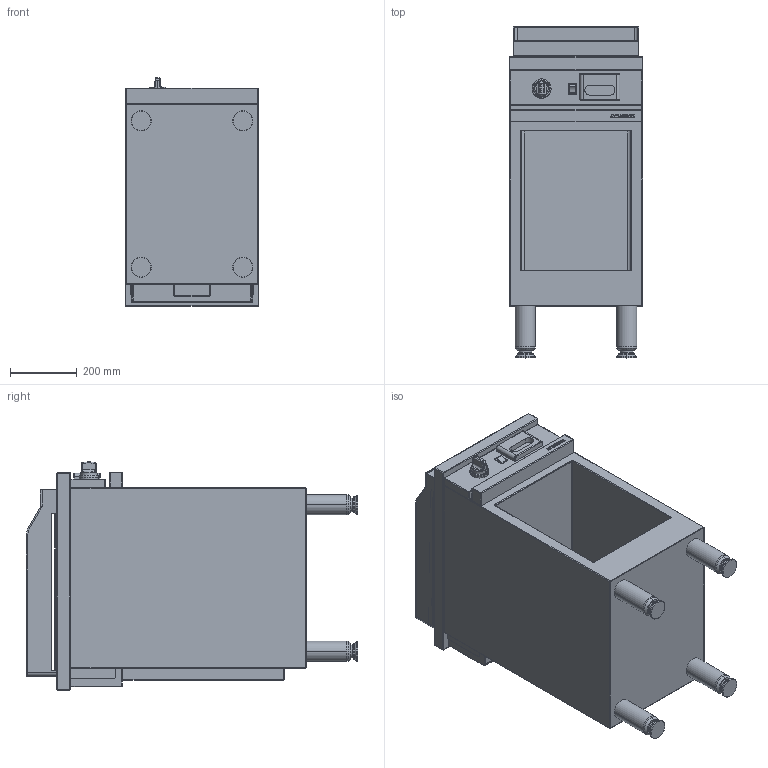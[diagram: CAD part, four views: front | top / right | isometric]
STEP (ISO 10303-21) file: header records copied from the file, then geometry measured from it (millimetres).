
FILE_DESCRIPTION((''),'2;1');
FILE_NAME('CME410SLR_EXPORT_STEP_ASM','2017-11-22T',('r.avril'),(''),'PRO/ENGINEER BY PARAMETRIC TECHNOLOGY CORPORATION, 2014200','PRO/ENGINEER BY PARAMETRIC TECHNOLOGY CORPORATION, 2014200','');
FILE_SCHEMA(('AP203_CONFIGURATION_CONTROLLED_3D_DESIGN_OF_MECHANICAL_PARTS_AND_ASSEMBLIES_MIM_LF { 1 0 10303 403 2 1 2 }'));
Length unit declared in the file: millimetre
Products named in the file (11): MODULES_AMB_400_EXPORT_STEP; TABLE_410_GRILLADE; TABLE_410_GRILLADE_ASM; TIROIR_GRILLADE_EXPORT_STEP; MANETTE_AMB_EXPORT_STEP; BASCULEUR_AMB_EXPORT_DXF; CEINTURE_PLAQUE_GRILLADE_400; 50288700; 50289100; 65070002_ASM; CME410SLR_EXPORT_STEP_ASM
Assembly tree (10 placements, depth 3):
  CME410SLR_EXPORT_STEP_ASM
    MODULES_AMB_400_EXPORT_STEP
    TABLE_410_GRILLADE_ASM
      TABLE_410_GRILLADE
    TIROIR_GRILLADE_EXPORT_STEP
    MANETTE_AMB_EXPORT_STEP
    BASCULEUR_AMB_EXPORT_DXF
    65070002_ASM
      CEINTURE_PLAQUE_GRILLADE_400
      50288700
      50289100
Bounding box: 400 x 992.34 x 682.5 mm (x, y, z)
Volume: 60155019.6 mm3; surface area: 4909557.4 mm2
Topology: 15 solids, 40 shells, 698 faces, 2331 edges, 1934 vertices
Faces by surface type: plane 258, cylinder 246, cone 82, torus 58, sphere 42, bspline 12
Entity records: 33329 total; most frequent: CARTESIAN_POINT 7967, DIRECTION 4167, ORIENTED_EDGE 3668, EDGE_CURVE 2073, AXIS2_PLACEMENT_3D 1470, VERTEX_POINT 1450, VECTOR 1194, LINE 1194
